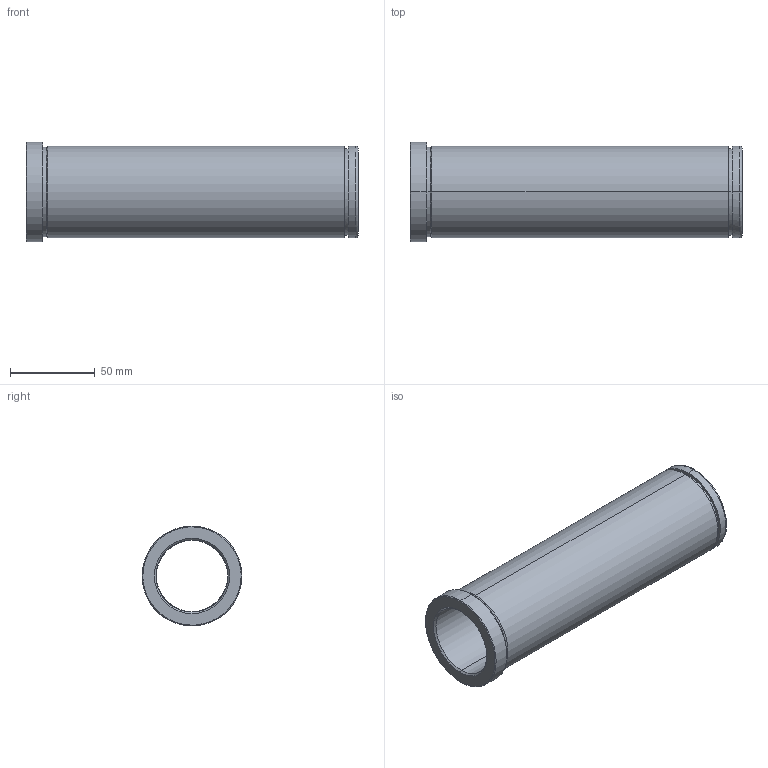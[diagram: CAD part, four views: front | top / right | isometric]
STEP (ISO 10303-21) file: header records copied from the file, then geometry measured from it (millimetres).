
FILE_DESCRIPTION(('CATIA V5 STEP Exchange'),'2;1');
FILE_NAME('C:\Users\Utente\Desktop\IO LAVORO\3D X SITO CF\X SITO\PLASTICA\553\553-42X196.stp','2021-06-08T17:57:20+00:00',('none'),('none'),'CATIA Version 5 Release 20 GA (IN-10)','CATIA V5 STEP AP203','none');
FILE_SCHEMA(('CONFIG_CONTROL_DESIGN'));
Length unit declared in the file: millimetre
Products named in the file (1): 553-42X196
Bounding box: 196 x 59 x 59 mm (x, y, z)
Volume: 178034.9 mm3; surface area: 62252.5 mm2
Topology: 1 solids, 1 shells, 32 faces, 102 edges, 76 vertices
Faces by surface type: cylinder 14, cone 8, plane 6, torus 4
Entity records: 1334 total; most frequent: CARTESIAN_POINT 389, ORIENTED_EDGE 204, DIRECTION 152, EDGE_CURVE 102, AXIS2_PLACEMENT_3D 99, VERTEX_POINT 76, CIRCLE 66, EDGE_LOOP 38
